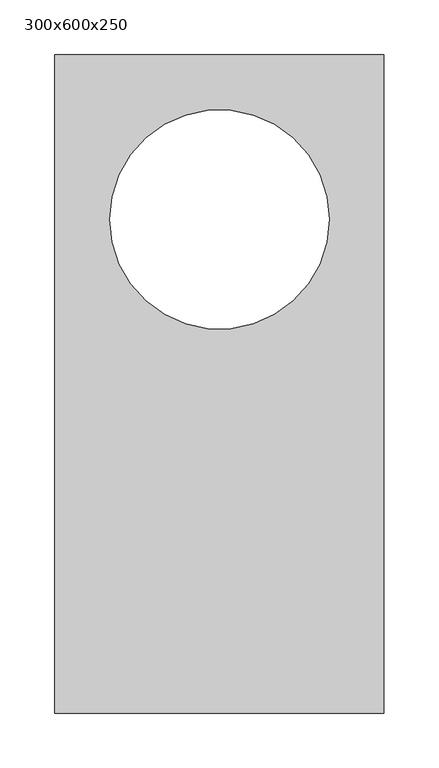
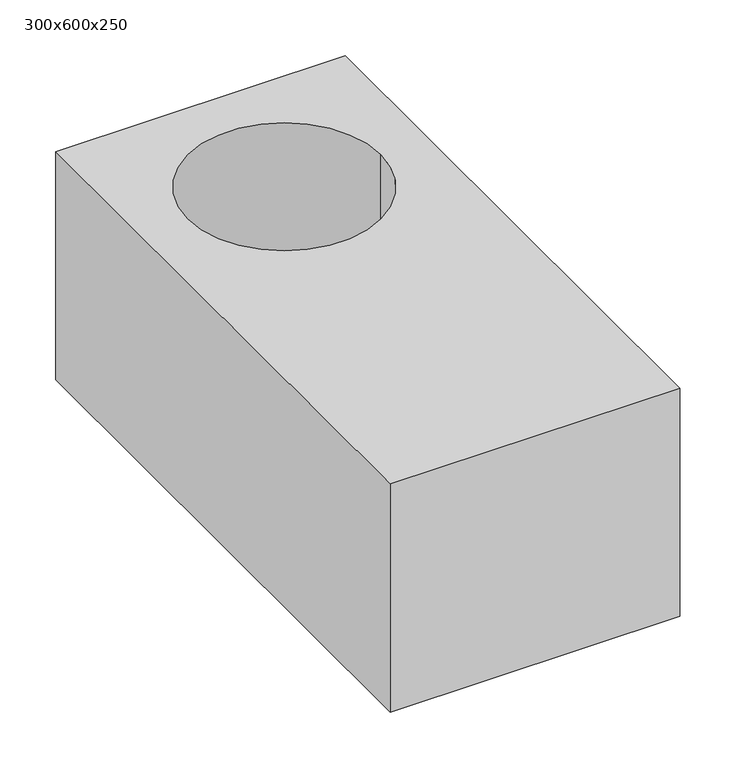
"""IFC4 building model written with IfcOpenShell, lengths in millimetres: plate geometry, GASBETON Evolution Forati : 300x600x250."""

from ifc_helpers import new_model, si_unit, point, frame_2d, origin, origin_with_axes, place, context, project, spatial, polyline, circle_curve, trimmed, segment, composite_curve, outline, extrude, source, transform, mapped, element, save


def plate_300x600x250_79bbf833(model_context):
    return source(origin(), model_context, "Body", "SweptSolid", [
        extrude(outline(polyline([(150.0, 300.0), (150.0, -300.0), (-150.0, -300.0), (-150.0, 300.0), (150.0, 300.0)]), holes=[composite_curve([segment(trimmed(circle_curve(frame_2d((0.0, 150.0)), 100.0), [point((-100.0, 150.0))], [point((100.0, 150.0))], True, "CARTESIAN"), True, "CONTINUOUS"), segment(trimmed(circle_curve(frame_2d((0.0, 150.0)), 100.0), [point((100.0, 150.0))], [point((-100.0, 150.0))], True, "CARTESIAN"), True, "CONTINUOUS")], self_intersect=False)]), origin_with_axes(), (0.0, 0.0, 1.0), 250.0),
    ])


if __name__ == "__main__":
    model = new_model("IFC4")
    model_context = context("Model", 3, world=origin())
    ifc_project = project(units=[si_unit("LENGTHUNIT", "METRE", prefix="MILLI")], contexts=[model_context])
    site = spatial("IfcSite", under=ifc_project)
    building = spatial("IfcBuilding", under=site)
    placement = place(None, origin())
    plate_300x600x250_shape = plate_300x600x250_79bbf833(model_context)
    element("IfcPlate", 1, ObjectType="GASBETON Evolution Forati : 300x600x250", at=placement, inside=building, context=model_context, shape_type="MappedRepresentation", body=[
        mapped(plate_300x600x250_shape, transform((0.0, 0.0, 0.0), x_axis=(1.0, 0.0, 0.0), y_axis=(0.0, 1.0, 0.0), z_axis=(0.0, 0.0, 1.0))),
    ])
    save(model, "model.ifc")
